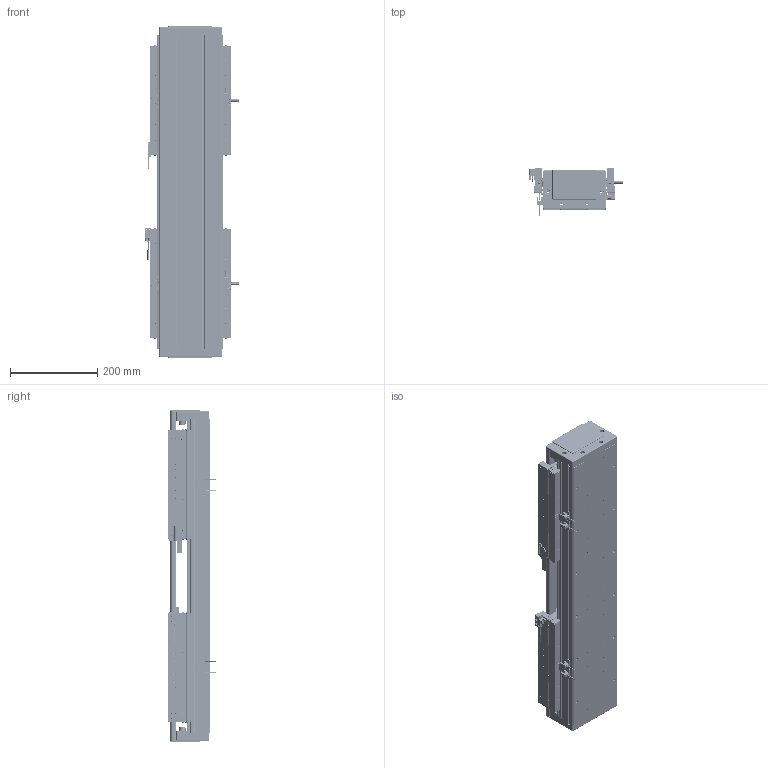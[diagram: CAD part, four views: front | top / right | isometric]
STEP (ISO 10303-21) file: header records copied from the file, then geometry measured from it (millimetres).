
FILE_DESCRIPTION (( 'STEP AP203' ), '1' );
FILE_NAME ('DA-C145-2-C3-T140-C010-0.2 眻盄萇儂.STEP', '2025-08-13T10:12:53', ( '' ), ( '' ), 'SwSTEP 2.0', 'SolidWorks 2019', '' );
FILE_SCHEMA (( 'CONFIG_CONTROL_DESIGN' ));
Length unit declared in the file: millimetre
Products named in the file (35): 复件 DA95-HK-GT-00 滑块钢轨^CU145-W-00 一体化滑动台板; 葩璃 DA145-C3-DP-A-00 菜えA^CU145-W 幗紩賑怢; 葩璃 CKM03-W060-C1C2-TP-0.2^DA-C145-2-C3-T-C010-0.2; 葩璃 PM-T45^DA-C145-2-C3-T-C010-0.2; 葩璃 DMA-010-0.2 黍杅芛^DA-C145-2-C3-T-C010-0.2; 复件 DA95-DB-00  挡板^CU145-W 滚珠滑台; 葩璃 CKMA01-W060-TRL^DA-C145-2-C3-T-C010-0.2; DKW-GYP-ZJ-00 笢潔嫖萇覜茼え; 葩璃 鞠褒情蹟譫 M3^DA-C145-2-C3-T-C010-0.2; CU145-W 幗紩賑怢; IU-CU145-L-00 菁釱(L720); 复件 DA95-MFP-01 密封片^CU145-W 滚珠滑台; 葩璃 PM-Y65^DA-C145-2-C3-T-C010-0.2; CU145-W-00 珨极趙賑雄怢啣-1; DKW168-HXJ-ZJ-00 笢潔滅袉砎蝶; TAY01-M8; 复件 纯铜油杯 6x6mm^CU145-W 滚珠滑台; 葩璃 DA145-C3-DP-B-00 菜えB^CU145-W 幗紩賑怢; 复件 DA145-C3-YB-B-00 压板B^CU145-W 滚珠滑台; DKW-KGZ-ZJ-00 中间光电开关支架; 葩璃 DA95-HXJ-00 遣喳砎蝶^DA-C145-2-C3-T-C010-0.2; 葩璃 DA95-GT-T-00^IU-CU145-L 菁釱絳寢; 葩璃 DA145-T-003-00 裔啣^DA-C145-2-C3-T-C010-0.2; 复件 内六角平端紧定螺钉 GB.T77-2000 M5×10^CU145-W 滚珠滑台; DA-C145-2-C3-T140-C010-0.2 眻盄萇儂; 葩璃 DA145-DG-H-N-00 傷裔^DA-C145-2-C3-T-C010-0.2; IU-CU145-L 菁釱絳寢; 复件 DA145-GYP-00 光电感应片^DA-C145-2-C3-T-C010-0.2; CU145-W 幗紩賑怢-1; 复件 DA145-C3-YB-A-00 压板A^CU145-W 滚珠滑台; 葩璃 XD-U-02L 棠掑喜^DA-C145-2-C3-T-C010-0.2; 66245-CU145-HT-W-00 賑雄怢啣(3D芞祧)(00); 复件 半圆头内六角螺钉 M3×6^CU145-W 滚珠滑台; 复件 DA145-C3-DK-00 挡块^CU145-W 滚珠滑台; CU145-W-00 珨极趙賑雄怢啣
Assembly tree (175 placements, depth 4):
  DA-C145-2-C3-T140-C010-0.2 眻盄萇儂
    IU-CU145-L 菁釱絳寢
      IU-CU145-L-00 菁釱(L720)
      葩璃 DA95-GT-T-00^IU-CU145-L 菁釱絳寢  x4
    CU145-W 幗紩賑怢
      CU145-W-00 珨极趙賑雄怢啣
        66245-CU145-HT-W-00 賑雄怢啣(3D芞祧)(00)
        复件 DA95-HK-GT-00 滑块钢轨^CU145-W-00 一体化滑动台板  x8
      复件 DA95-MFP-01 密封片^CU145-W 滚珠滑台  x8
      复件 DA95-DB-00  挡板^CU145-W 滚珠滑台  x8
      复件 内六角平端紧定螺钉 GB.T77-2000 M5×10^CU145-W 滚珠滑台  x4
      复件 纯铜油杯 6x6mm^CU145-W 滚珠滑台  x4
      复件 半圆头内六角螺钉 M3×6^CU145-W 滚珠滑台  x16
      复件 DA145-C3-DK-00 挡块^CU145-W 滚珠滑台  x4
      葩璃 DA145-C3-DP-B-00 菜えB^CU145-W 幗紩賑怢  x2
      复件 DA145-C3-YB-B-00 压板B^CU145-W 滚珠滑台  x2
      葩璃 DA145-C3-DP-A-00 菜えA^CU145-W 幗紩賑怢  x3
      复件 DA145-C3-YB-A-00 压板A^CU145-W 滚珠滑台  x3
      TAY01-M8  x4
    CU145-W 幗紩賑怢-1
      CU145-W-00 珨极趙賑雄怢啣-1
        66245-CU145-HT-W-00 賑雄怢啣(3D芞祧)(00)
        复件 DA95-HK-GT-00 滑块钢轨^CU145-W-00 一体化滑动台板  x8
      复件 DA95-MFP-01 密封片^CU145-W 滚珠滑台  x8
      复件 DA95-DB-00  挡板^CU145-W 滚珠滑台  x8
      复件 内六角平端紧定螺钉 GB.T77-2000 M5×10^CU145-W 滚珠滑台  x4
      复件 纯铜油杯 6x6mm^CU145-W 滚珠滑台  x4
      复件 半圆头内六角螺钉 M3×6^CU145-W 滚珠滑台  x16
      复件 DA145-C3-DK-00 挡块^CU145-W 滚珠滑台  x4
      葩璃 DA145-C3-DP-B-00 菜えB^CU145-W 幗紩賑怢  x2
      复件 DA145-C3-YB-B-00 压板B^CU145-W 滚珠滑台  x2
      葩璃 DA145-C3-DP-A-00 菜えA^CU145-W 幗紩賑怢  x3
      复件 DA145-C3-YB-A-00 压板A^CU145-W 滚珠滑台  x3
      TAY01-M8  x4
    葩璃 CKMA01-W060-TRL^DA-C145-2-C3-T-C010-0.2
    葩璃 PM-T45^DA-C145-2-C3-T-C010-0.2  x4
    葩璃 XD-U-02L 棠掑喜^DA-C145-2-C3-T-C010-0.2
    葩璃 DA145-DG-H-N-00 傷裔^DA-C145-2-C3-T-C010-0.2  x2
    葩璃 DA145-T-003-00 裔啣^DA-C145-2-C3-T-C010-0.2
    葩璃 DA95-HXJ-00 遣喳砎蝶^DA-C145-2-C3-T-C010-0.2  x4
    葩璃 CKM03-W060-C1C2-TP-0.2^DA-C145-2-C3-T-C010-0.2  x2
    葩璃 DMA-010-0.2 黍杅芛^DA-C145-2-C3-T-C010-0.2  x2
    复件 DA145-GYP-00 光电感应片^DA-C145-2-C3-T-C010-0.2  x2
    DKW-GYP-ZJ-00 笢潔嫖萇覜茼え
    DKW-KGZ-ZJ-00 中间光电开关支架
    葩璃 PM-Y65^DA-C145-2-C3-T-C010-0.2
    葩璃 鞠褒情蹟譫 M3^DA-C145-2-C3-T-C010-0.2  x8
    DKW168-HXJ-ZJ-00 笢潔滅袉砎蝶
Bounding box: 213.7 x 108.45 x 760 mm (x, y, z)
Volume: 7556647 mm3; surface area: 1971676.6 mm2
Topology: 171 solids, 235 shells, 6752 faces, 17236 edges, 10523 vertices
Faces by surface type: plane 2924, cylinder 2540, cone 1120, torus 152, sphere 8, bspline 8
Entity records: 96307 total; most frequent: CARTESIAN_POINT 22040, DIRECTION 14131, ORIENTED_EDGE 13636, EDGE_CURVE 6818, AXIS2_PLACEMENT_3D 5107, VERTEX_POINT 4372, VECTOR 3917, LINE 3917
